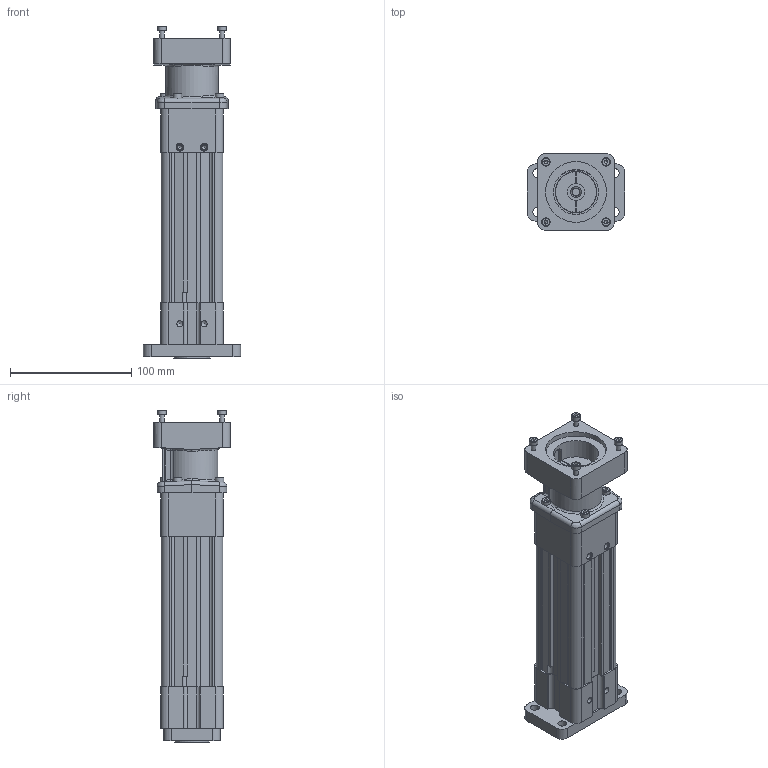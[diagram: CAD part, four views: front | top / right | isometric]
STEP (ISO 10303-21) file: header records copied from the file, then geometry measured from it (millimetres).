
FILE_DESCRIPTION (( 'STEP AP203' ), '1' );
FILE_NAME ('RSA24_BNL05_SM60.000_RS-485158-1.step', '2025-04-01T17:49:23', ( '' ), ( '' ), 'SwSTEP 2.0', 'SolidWorks 2024', '' );
FILE_SCHEMA (( 'CONFIG_CONTROL_DESIGN' ));
Length unit declared in the file: inch
Products named in the file (5): RSA24_BNL05_SM60.000_RS-485158-1; tempJoin0_21249032_RSA24_BNL05_SM60.000_RS-485158-1; tempJoin2_45109053_RSA24_BNL05_SM60.000_RS-485158-1; Base_RSA24_BNL05_SM60.000_RS-485158-1; tempJoin0_21249083_RSA24_BNL05_SM60.000_RS-485158-1
Assembly tree (4 placements, depth 2):
  RSA24_BNL05_SM60.000_RS-485158-1
    tempJoin0_21249032_RSA24_BNL05_SM60.000_RS-485158-1
    tempJoin2_45109053_RSA24_BNL05_SM60.000_RS-485158-1
    tempJoin0_21249083_RSA24_BNL05_SM60.000_RS-485158-1
    Base_RSA24_BNL05_SM60.000_RS-485158-1
Bounding box: 80 x 63.17 x 273.46 mm (x, y, z)
Volume: 564433.4 mm3; surface area: 151917.9 mm2
Topology: 8 solids, 27 shells, 899 faces, 2124 edges, 1378 vertices
Faces by surface type: plane 528, cylinder 261, cone 58, bspline 30, torus 22
Full cylindrical faces by diameter (mm): 1.981 x2, 2.5 x1, 2.921 x4, 3.299 x4, 3.3 x8, 3.969 x2, 3.988 x2, 4 x21, 4.2 x4, 4.572 x1, 4.623 x4, 4.826 x4, 5 x10, 5.001 x2, 5.613 x4, 6.25 x2, 6.35 x2, 7 x13, 7.2 x4, 7.874 x4, 7.973 x1, 8.5 x12, 8.8 x1, 9.652 x12, 9.906 x1, 21.844 x1, 29.769 x1, 29.997 x2, 30.48 x1, 34.036 x1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
Entity records: 26220 total; most frequent: CARTESIAN_POINT 6074, DIRECTION 4109, ORIENTED_EDGE 3688, EDGE_CURVE 1844, AXIS2_PLACEMENT_3D 1510, VERTEX_POINT 1301, EDGE_LOOP 1241, VECTOR 1089
